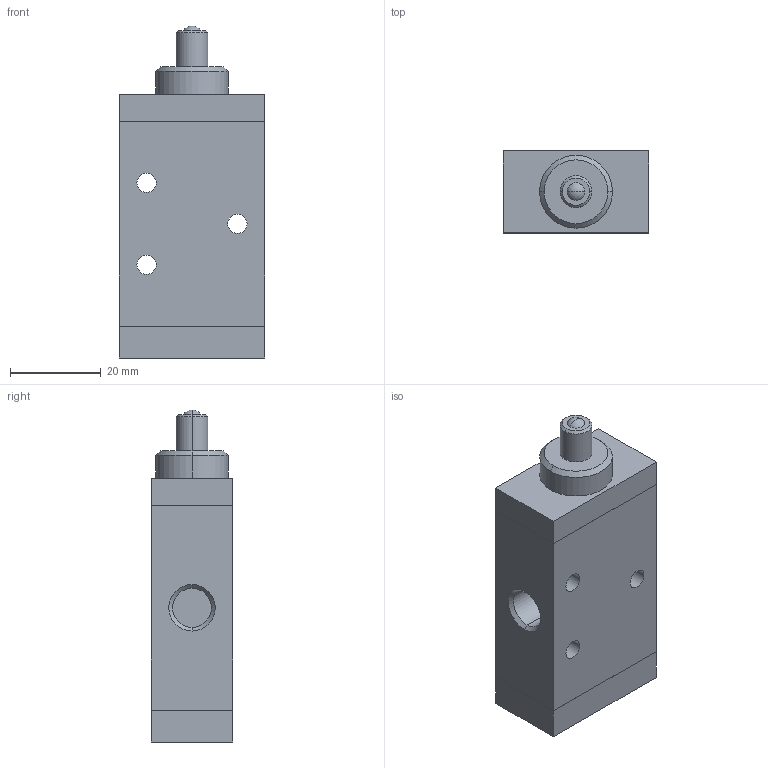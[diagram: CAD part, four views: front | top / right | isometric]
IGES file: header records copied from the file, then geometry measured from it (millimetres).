
Global section: file name: No Iges File Name specified; native system: AutoDesk Inventor R11.0; preprocessor: AutoDesk Inventor Iges Exporter R11.0; author: No Author specified; organization: No Organization specified; date: 20061219.113730; units: millimetre
Bounding box: 32 x 18 x 73 mm (x, y, z)
Volume: 32659.4 mm3; surface area: 8663.9 mm2
Topology: 1 solids, 1 shells, 49 faces, 110 edges, 69 vertices
Faces by surface type: plane 18, bspline 15, revolution 6, cylinder 4, cone 4, sphere 2
